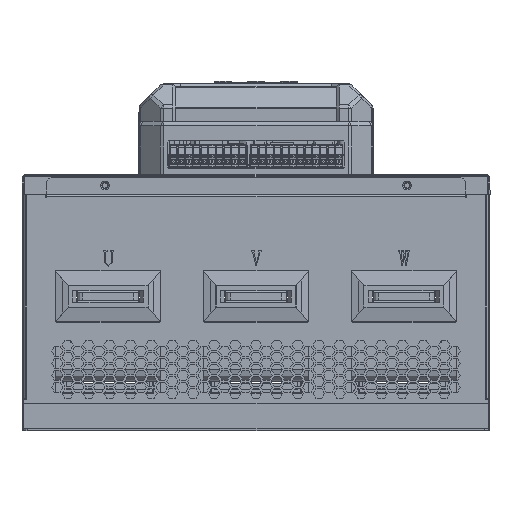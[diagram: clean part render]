
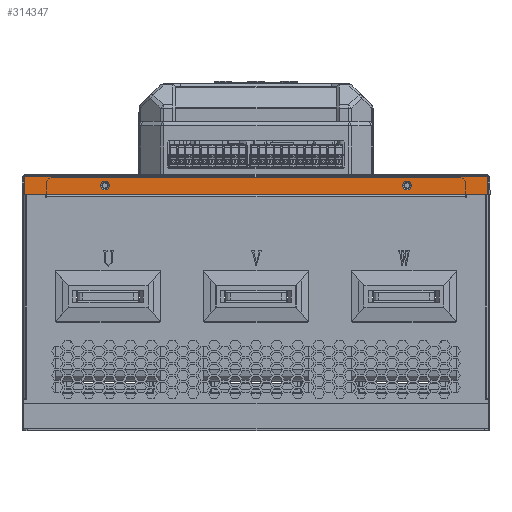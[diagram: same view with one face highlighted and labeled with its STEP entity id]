
A CAD part, front view. The second image highlights one B-rep face of the part: STEP entity #314347.
In plain terms, the highlighted planar face has unit normal (0, -1, 0).
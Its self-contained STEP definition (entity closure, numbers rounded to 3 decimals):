
#4253 = FACE_OUTER_BOUND ( 'NONE', #225290, .T. ) ;
#9269 = CARTESIAN_POINT ( 'NONE',  ( 103.25, -220., -7.5 ) ) ;
#11322 = CARTESIAN_POINT ( 'NONE',  ( 100., -220., -7.5 ) ) ;
#11657 = EDGE_CURVE ( 'NONE', #186912, #236710, #41841, .T. ) ;
#24569 = VECTOR ( 'NONE', #170363, 1000. ) ;
#25071 = FACE_BOUND ( 'NONE', #147742, .T. ) ;
#25124 = LINE ( 'NONE', #73020, #24569 ) ;
#26358 = CARTESIAN_POINT ( 'NONE',  ( -153.3, -220., -1.7 ) ) ;
#29782 = PLANE ( 'NONE',  #132927 ) ;
#34351 = VERTEX_POINT ( 'NONE', #181267 ) ;
#41841 = LINE ( 'NONE', #65785, #270089 ) ;
#43594 = CIRCLE ( 'NONE', #94666, 3.25 ) ;
#43766 = DIRECTION ( 'NONE',  ( 0., -1., 0. ) ) ;
#48983 = CARTESIAN_POINT ( 'NONE',  ( 0., -220., 0. ) ) ;
#49689 = AXIS2_PLACEMENT_3D ( 'NONE', #238484, #43766, #91674 ) ;
#53070 = ORIENTED_EDGE ( 'NONE', *, *, #112569, .F. ) ;
#59927 = EDGE_CURVE ( 'NONE', #136281, #128956, #121025, .T. ) ;
#62846 = EDGE_CURVE ( 'NONE', #128956, #136281, #92830, .T. ) ;
#65785 = CARTESIAN_POINT ( 'NONE',  ( 0., -220., -13.5 ) ) ;
#67243 = ORIENTED_EDGE ( 'NONE', *, *, #70656, .F. ) ;
#67288 = AXIS2_PLACEMENT_3D ( 'NONE', #137153, #90793, #171655 ) ;
#70656 = EDGE_CURVE ( 'NONE', #257312, #184856, #126885, .T. ) ;
#73020 = CARTESIAN_POINT ( 'NONE',  ( -153.093, -220., 0. ) ) ;
#86297 = DIRECTION ( 'NONE',  ( 0., -1., 0. ) ) ;
#90793 = DIRECTION ( 'NONE',  ( 0., -1., 0. ) ) ;
#91674 = DIRECTION ( 'NONE',  ( 1., 0., 0. ) ) ;
#92830 = CIRCLE ( 'NONE', #67288, 3.25 ) ;
#94666 = AXIS2_PLACEMENT_3D ( 'NONE', #269721, #149991, #199494 ) ;
#94827 = VECTOR ( 'NONE', #177918, 1000. ) ;
#103103 = ORIENTED_EDGE ( 'NONE', *, *, #105036, .F. ) ;
#105036 = EDGE_CURVE ( 'NONE', #34351, #293779, #43594, .T. ) ;
#112569 = EDGE_CURVE ( 'NONE', #184856, #186912, #141314, .T. ) ;
#121025 = CIRCLE ( 'NONE', #49689, 3.25 ) ;
#126885 = LINE ( 'NONE', #26358, #94827 ) ;
#127156 = DIRECTION ( 'NONE',  ( 0., 1., 0. ) ) ;
#128214 = ORIENTED_EDGE ( 'NONE', *, *, #59927, .F. ) ;
#128956 = VERTEX_POINT ( 'NONE', #200198 ) ;
#132927 = AXIS2_PLACEMENT_3D ( 'NONE', #48983, #127156, #245292 ) ;
#135246 = CARTESIAN_POINT ( 'NONE',  ( -103.25, -220., -7.5 ) ) ;
#135536 = ORIENTED_EDGE ( 'NONE', *, *, #226253, .F. ) ;
#136281 = VERTEX_POINT ( 'NONE', #135246 ) ;
#137153 = CARTESIAN_POINT ( 'NONE',  ( -100., -220., -7.5 ) ) ;
#138159 = CARTESIAN_POINT ( 'NONE',  ( 153.093, -220., -13.5 ) ) ;
#139215 = DIRECTION ( 'NONE',  ( -1., 0., 0. ) ) ;
#141314 = LINE ( 'NONE', #209998, #175727 ) ;
#147086 = CARTESIAN_POINT ( 'NONE',  ( -153.093, -220., -13.5 ) ) ;
#147742 = EDGE_LOOP ( 'NONE', ( #211559, #103103 ) ) ;
#149991 = DIRECTION ( 'NONE',  ( 0., -1., 0. ) ) ;
#170363 = DIRECTION ( 'NONE',  ( 0., 0., 1. ) ) ;
#171655 = DIRECTION ( 'NONE',  ( 1., 0., 0. ) ) ;
#175727 = VECTOR ( 'NONE', #186040, 1000. ) ;
#177918 = DIRECTION ( 'NONE',  ( 1., 0., 0. ) ) ;
#181267 = CARTESIAN_POINT ( 'NONE',  ( 96.75, -220., -7.5 ) ) ;
#184856 = VERTEX_POINT ( 'NONE', #209086 ) ;
#186040 = DIRECTION ( 'NONE',  ( 0., 0., -1. ) ) ;
#186575 = ORIENTED_EDGE ( 'NONE', *, *, #62846, .F. ) ;
#186912 = VERTEX_POINT ( 'NONE', #138159 ) ;
#199494 = DIRECTION ( 'NONE',  ( 1., 0., 0. ) ) ;
#200198 = CARTESIAN_POINT ( 'NONE',  ( -96.75, -220., -7.5 ) ) ;
#209086 = CARTESIAN_POINT ( 'NONE',  ( 153.093, -220., -1.7 ) ) ;
#209316 = EDGE_CURVE ( 'NONE', #293779, #34351, #266904, .T. ) ;
#209998 = CARTESIAN_POINT ( 'NONE',  ( 153.093, -220., 0. ) ) ;
#211559 = ORIENTED_EDGE ( 'NONE', *, *, #209316, .F. ) ;
#213898 = FACE_BOUND ( 'NONE', #287486, .T. ) ;
#225290 = EDGE_LOOP ( 'NONE', ( #67243, #135536, #246269, #53070 ) ) ;
#226253 = EDGE_CURVE ( 'NONE', #236710, #257312, #25124, .T. ) ;
#236710 = VERTEX_POINT ( 'NONE', #147086 ) ;
#238484 = CARTESIAN_POINT ( 'NONE',  ( -100., -220., -7.5 ) ) ;
#245292 = DIRECTION ( 'NONE',  ( 0., 0., 1. ) ) ;
#246269 = ORIENTED_EDGE ( 'NONE', *, *, #11657, .F. ) ;
#246618 = AXIS2_PLACEMENT_3D ( 'NONE', #11322, #86297, #308073 ) ;
#257312 = VERTEX_POINT ( 'NONE', #287703 ) ;
#266904 = CIRCLE ( 'NONE', #246618, 3.25 ) ;
#269721 = CARTESIAN_POINT ( 'NONE',  ( 100., -220., -7.5 ) ) ;
#270089 = VECTOR ( 'NONE', #139215, 1000. ) ;
#287486 = EDGE_LOOP ( 'NONE', ( #186575, #128214 ) ) ;
#287703 = CARTESIAN_POINT ( 'NONE',  ( -153.093, -220., -1.7 ) ) ;
#293779 = VERTEX_POINT ( 'NONE', #9269 ) ;
#308073 = DIRECTION ( 'NONE',  ( 1., 0., 0. ) ) ;
#314347 = ADVANCED_FACE ( 'NONE', ( #4253, #213898, #25071 ), #29782, .F. ) ;
